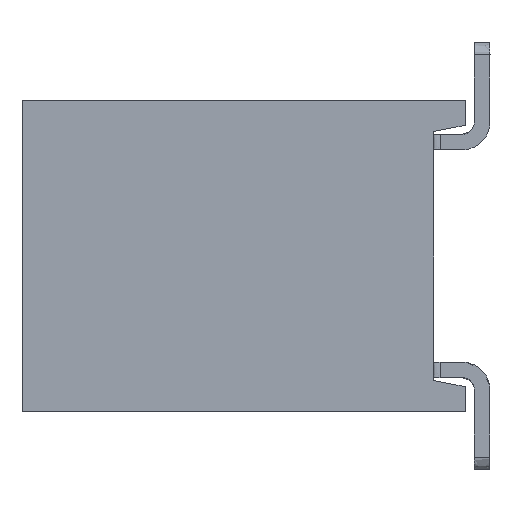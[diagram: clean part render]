
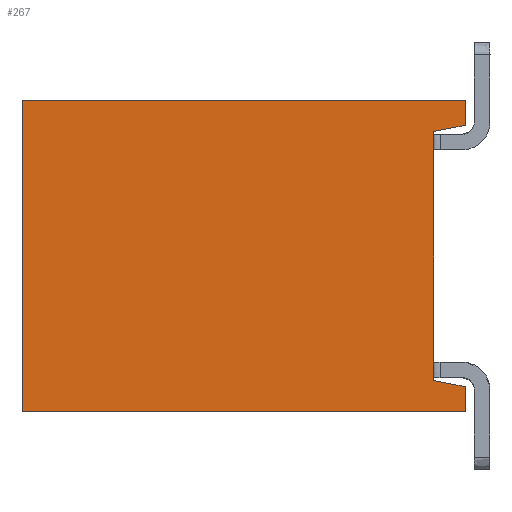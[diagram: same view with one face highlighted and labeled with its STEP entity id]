
A CAD part, left-side view. The second image highlights one B-rep face of the part: STEP entity #267.
In plain terms, the highlighted planar face has unit normal (-1, 0, 0).
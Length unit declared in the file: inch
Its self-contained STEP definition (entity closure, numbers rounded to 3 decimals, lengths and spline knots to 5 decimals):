
#267 = ADVANCED_FACE ( 'NONE', ( #42689 ), #59392, .T. ) ;
#895 = CARTESIAN_POINT ( 'NONE',  ( 0., -0.25984, -0.20079 ) ) ;
#1464 = CARTESIAN_POINT ( 'NONE',  ( 0., -0.27953, -0.01594 ) ) ;
#2988 = VERTEX_POINT ( 'NONE', #57025 ) ;
#3129 = DIRECTION ( 'NONE',  ( 0., 0., 1. ) ) ;
#4812 = VERTEX_POINT ( 'NONE', #24067 ) ;
#4982 = VECTOR ( 'NONE', #27842, 39.37008 ) ;
#5812 = LINE ( 'NONE', #51709, #57302 ) ;
#7842 = DIRECTION ( 'NONE',  ( 0., -1., 0. ) ) ;
#8045 = CARTESIAN_POINT ( 'NONE',  ( 0., -0.27953, 0.00394 ) ) ;
#11157 = VECTOR ( 'NONE', #20742, 39.37008 ) ;
#16591 = EDGE_CURVE ( 'NONE', #36526, #35621, #20102, .T. ) ;
#18200 = CARTESIAN_POINT ( 'NONE',  ( 0., -0.27953, 0.00394 ) ) ;
#19529 = CARTESIAN_POINT ( 'NONE',  ( 0., 0., 0. ) ) ;
#19791 = EDGE_CURVE ( 'NONE', #45431, #51437, #5812, .T. ) ;
#20102 = LINE ( 'NONE', #33247, #45032 ) ;
#20742 = DIRECTION ( 'NONE',  ( 0., 0., 1. ) ) ;
#22620 = CARTESIAN_POINT ( 'NONE',  ( 0., -0.28512, 0. ) ) ;
#23276 = DIRECTION ( 'NONE',  ( 0., 0., 1. ) ) ;
#24067 = CARTESIAN_POINT ( 'NONE',  ( 0., -0.27953, 0. ) ) ;
#24466 = ORIENTED_EDGE ( 'NONE', *, *, #24731, .T. ) ;
#24566 = LINE ( 'NONE', #895, #11157 ) ;
#24594 = VERTEX_POINT ( 'NONE', #1464 ) ;
#24731 = EDGE_CURVE ( 'NONE', #53250, #45431, #57817, .T. ) ;
#25259 = LINE ( 'NONE', #30221, #63232 ) ;
#27203 = ORIENTED_EDGE ( 'NONE', *, *, #33587, .T. ) ;
#27723 = CARTESIAN_POINT ( 'NONE',  ( 0., -0.28512, -0.19685 ) ) ;
#27842 = DIRECTION ( 'NONE',  ( 0., 0., 1. ) ) ;
#30221 = CARTESIAN_POINT ( 'NONE',  ( 0., -0.25984, -0.01988 ) ) ;
#30458 = VECTOR ( 'NONE', #7842, 39.37008 ) ;
#31860 = DIRECTION ( 'NONE',  ( 0., 0.981, 0.196 ) ) ;
#33247 = CARTESIAN_POINT ( 'NONE',  ( 0., 0., 0.00394 ) ) ;
#33343 = ORIENTED_EDGE ( 'NONE', *, *, #16591, .F. ) ;
#33545 = ORIENTED_EDGE ( 'NONE', *, *, #52047, .T. ) ;
#33587 = EDGE_CURVE ( 'NONE', #2988, #24594, #25259, .T. ) ;
#35621 = VERTEX_POINT ( 'NONE', #19529 ) ;
#36133 = CARTESIAN_POINT ( 'NONE',  ( 0., -0.27953, -0.19685 ) ) ;
#36526 = VERTEX_POINT ( 'NONE', #57155 ) ;
#38433 = EDGE_CURVE ( 'NONE', #36526, #53250, #58202, .T. ) ;
#38890 = ORIENTED_EDGE ( 'NONE', *, *, #53386, .F. ) ;
#41569 = CARTESIAN_POINT ( 'NONE',  ( 0., -0.25984, -0.17697 ) ) ;
#42689 = FACE_OUTER_BOUND ( 'NONE', #43613, .T. ) ;
#43485 = VECTOR ( 'NONE', #57389, 39.37008 ) ;
#43613 = EDGE_LOOP ( 'NONE', ( #49424, #45066, #27203, #33545, #38890, #33343, #61378, #24466 ) ) ;
#44648 = VECTOR ( 'NONE', #23276, 39.37008 ) ;
#45032 = VECTOR ( 'NONE', #3129, 39.37008 ) ;
#45066 = ORIENTED_EDGE ( 'NONE', *, *, #58395, .T. ) ;
#45431 = VERTEX_POINT ( 'NONE', #63814 ) ;
#46284 = AXIS2_PLACEMENT_3D ( 'NONE', #58507, #57154, #56722 ) ;
#49424 = ORIENTED_EDGE ( 'NONE', *, *, #19791, .T. ) ;
#51437 = VERTEX_POINT ( 'NONE', #41569 ) ;
#51709 = CARTESIAN_POINT ( 'NONE',  ( 0., -0.28026, -0.18105 ) ) ;
#52047 = EDGE_CURVE ( 'NONE', #24594, #4812, #58061, .T. ) ;
#53250 = VERTEX_POINT ( 'NONE', #36133 ) ;
#53386 = EDGE_CURVE ( 'NONE', #35621, #4812, #56786, .T. ) ;
#55089 = DIRECTION ( 'NONE',  ( 0., -0.981, 0.196 ) ) ;
#56722 = DIRECTION ( 'NONE',  ( 0., 0., 1. ) ) ;
#56786 = LINE ( 'NONE', #22620, #30458 ) ;
#57025 = CARTESIAN_POINT ( 'NONE',  ( 0., -0.25984, -0.01988 ) ) ;
#57154 = DIRECTION ( 'NONE',  ( -1., 0., 0. ) ) ;
#57155 = CARTESIAN_POINT ( 'NONE',  ( 0., 0., -0.19685 ) ) ;
#57302 = VECTOR ( 'NONE', #31860, 39.37008 ) ;
#57389 = DIRECTION ( 'NONE',  ( 0., -1., 0. ) ) ;
#57817 = LINE ( 'NONE', #18200, #44648 ) ;
#58061 = LINE ( 'NONE', #8045, #4982 ) ;
#58202 = LINE ( 'NONE', #27723, #43485 ) ;
#58395 = EDGE_CURVE ( 'NONE', #51437, #2988, #24566, .T. ) ;
#58507 = CARTESIAN_POINT ( 'NONE',  ( 0., -0.28512, -0.20079 ) ) ;
#59392 = PLANE ( 'NONE',  #46284 ) ;
#61378 = ORIENTED_EDGE ( 'NONE', *, *, #38433, .T. ) ;
#63232 = VECTOR ( 'NONE', #55089, 39.37008 ) ;
#63814 = CARTESIAN_POINT ( 'NONE',  ( 0., -0.27953, -0.18091 ) ) ;
